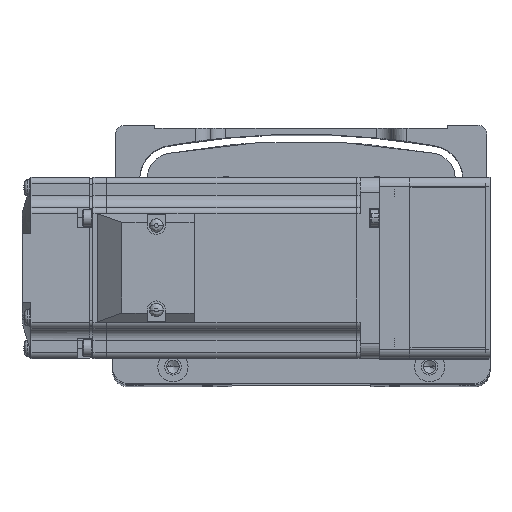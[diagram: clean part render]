
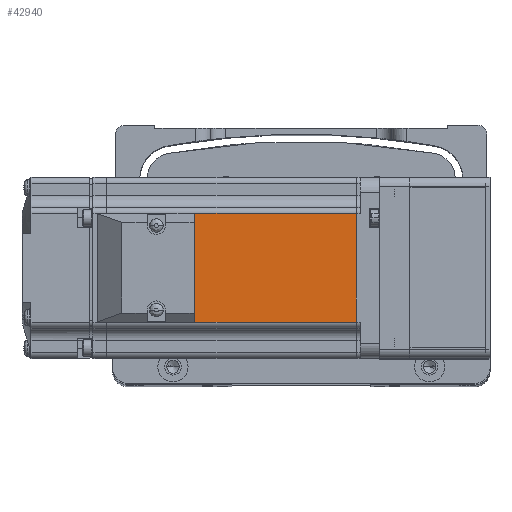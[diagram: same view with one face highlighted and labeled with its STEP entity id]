
A CAD part, top view. The second image highlights one B-rep face of the part: STEP entity #42940.
In plain terms, the highlighted planar face has unit normal (0, 0, 1) as drawn and (0, 1, 0) by its records, which use the part's own axes.
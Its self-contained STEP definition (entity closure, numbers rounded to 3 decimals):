
#4418 = CARTESIAN_POINT ( 'NONE',  ( -7.75, 30., 0. ) ) ;
#5634 = LINE ( 'NONE', #17031, #36530 ) ;
#7841 = EDGE_CURVE ( 'NONE', #34916, #57532, #60604, .T. ) ;
#12100 = ORIENTED_EDGE ( 'NONE', *, *, #23274, .T. ) ;
#15335 = LINE ( 'NONE', #35925, #70538 ) ;
#17031 = CARTESIAN_POINT ( 'NONE',  ( -6.5, 30., 18. ) ) ;
#20005 = ORIENTED_EDGE ( 'NONE', *, *, #51708, .T. ) ;
#21974 = DIRECTION ( 'NONE',  ( 0., 1., 0. ) ) ;
#22981 = DIRECTION ( 'NONE',  ( 0., 0., 1. ) ) ;
#23274 = EDGE_CURVE ( 'NONE', #34916, #72837, #15335, .T. ) ;
#23454 = LINE ( 'NONE', #27042, #54450 ) ;
#27042 = CARTESIAN_POINT ( 'NONE',  ( -90.45, 30., 0. ) ) ;
#27979 = AXIS2_PLACEMENT_3D ( 'NONE', #59064, #21974, #65300 ) ;
#32080 = EDGE_LOOP ( 'NONE', ( #74870, #12100, #60874, #20005 ) ) ;
#34155 = PLANE ( 'NONE',  #27979 ) ;
#34916 = VERTEX_POINT ( 'NONE', #65457 ) ;
#35925 = CARTESIAN_POINT ( 'NONE',  ( -6.5, 30., -18. ) ) ;
#36530 = VECTOR ( 'NONE', #66301, 1000. ) ;
#37462 = EDGE_CURVE ( 'NONE', #72837, #74858, #23454, .T. ) ;
#42940 = ADVANCED_FACE ( 'NONE', ( #47477 ), #34155, .T. ) ;
#44081 = VECTOR ( 'NONE', #22981, 1000. ) ;
#47477 = FACE_OUTER_BOUND ( 'NONE', #32080, .T. ) ;
#51708 = EDGE_CURVE ( 'NONE', #74858, #57532, #5634, .T. ) ;
#54450 = VECTOR ( 'NONE', #64130, 1000. ) ;
#57532 = VERTEX_POINT ( 'NONE', #68589 ) ;
#59064 = CARTESIAN_POINT ( 'NONE',  ( -6.5, 30., 25. ) ) ;
#60604 = LINE ( 'NONE', #4418, #44081 ) ;
#60874 = ORIENTED_EDGE ( 'NONE', *, *, #37462, .T. ) ;
#64130 = DIRECTION ( 'NONE',  ( 0., 0., 1. ) ) ;
#65300 = DIRECTION ( 'NONE',  ( 0., 0., 1. ) ) ;
#65457 = CARTESIAN_POINT ( 'NONE',  ( -7.75, 30., -18. ) ) ;
#66301 = DIRECTION ( 'NONE',  ( 1., 0., 0. ) ) ;
#68589 = CARTESIAN_POINT ( 'NONE',  ( -7.75, 30., 18. ) ) ;
#70538 = VECTOR ( 'NONE', #79228, 1000. ) ;
#72837 = VERTEX_POINT ( 'NONE', #78159 ) ;
#74858 = VERTEX_POINT ( 'NONE', #75521 ) ;
#74870 = ORIENTED_EDGE ( 'NONE', *, *, #7841, .F. ) ;
#75521 = CARTESIAN_POINT ( 'NONE',  ( -90.45, 30., 18. ) ) ;
#78159 = CARTESIAN_POINT ( 'NONE',  ( -90.45, 30., -18. ) ) ;
#79228 = DIRECTION ( 'NONE',  ( -1., 0., 0. ) ) ;
